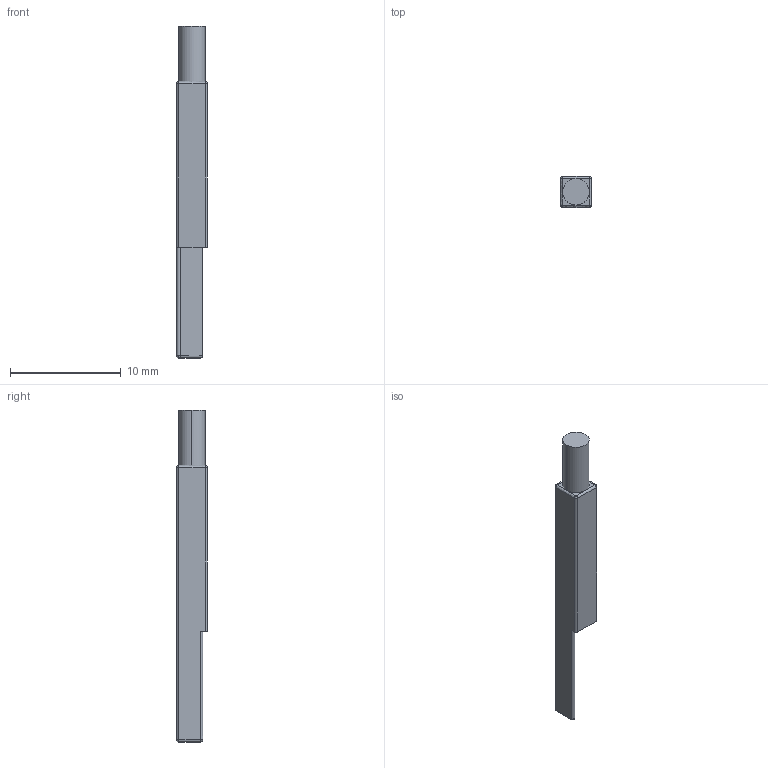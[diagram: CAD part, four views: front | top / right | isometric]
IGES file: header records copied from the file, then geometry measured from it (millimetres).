
Start section: Elysium IGES Interface
Global section: file name: \\Cad1\utenti\ilmenov\CR_Q12.igs; native system: SolidDesigner 15.50B  03-Nov-2007; preprocessor: OneSpace IGES_3D V2.2; author: Unknown; organization: Unknown; date: 20080526.142152; units: millimetre
Bounding box: 2.8 x 2.8 x 30 mm (x, y, z)
Surface area: 294.5 mm2 (no closed solid volume)
Topology: 0 solids, 0 shells, 35 faces, 150 edges, 142 vertices
Faces by surface type: bspline 23, plane 12
